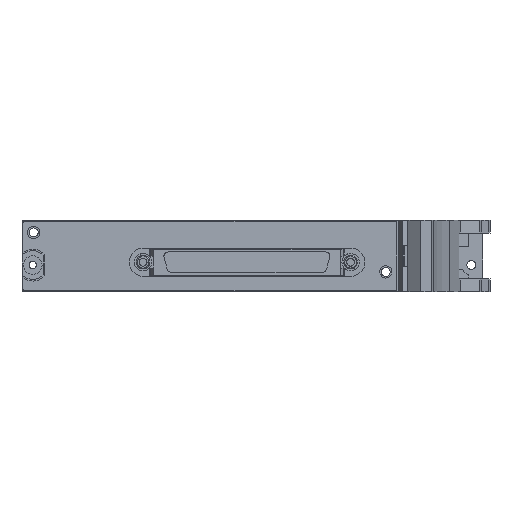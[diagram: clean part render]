
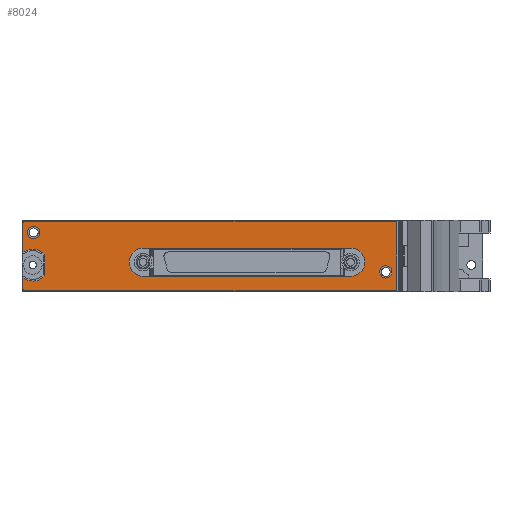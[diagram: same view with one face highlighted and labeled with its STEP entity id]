
A CAD part, left-side view. The second image highlights one B-rep face of the part: STEP entity #8024.
In plain terms, the highlighted planar face has unit normal (-1, 0, 0).
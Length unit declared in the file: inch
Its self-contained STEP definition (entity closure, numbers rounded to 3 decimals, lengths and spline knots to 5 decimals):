
#1949=CARTESIAN_POINT('',(-0.215,0.527,0.665));
#1950=DIRECTION('',(-1.,0.,0.));
#1951=DIRECTION('',(0.,0.,1.));
#1952=AXIS2_PLACEMENT_3D('',#1949,#1950,#1951);
#1954=DIRECTION('',(0.,1.,0.));
#1955=VECTOR('',#1954,4.07);
#1956=CARTESIAN_POINT('',(-0.215,-3.543,0.685));
#1957=LINE('',#1956,#1955);
#1958=CARTESIAN_POINT('',(-0.215,-3.543,0.665));
#1959=DIRECTION('',(-1.,0.,0.));
#1960=DIRECTION('',(0.,-1.,0.));
#1961=AXIS2_PLACEMENT_3D('',#1958,#1959,#1960);
#1963=DIRECTION('',(0.,0.,1.));
#1964=VECTOR('',#1963,0.728);
#1965=CARTESIAN_POINT('',(-0.215,-3.563,-0.063));
#1966=LINE('',#1965,#1964);
#1967=CARTESIAN_POINT('',(-0.215,-3.543,-0.063));
#1968=DIRECTION('',(-1.,0.,0.));
#1969=DIRECTION('',(0.,0.,-1.));
#1970=AXIS2_PLACEMENT_3D('',#1967,#1968,#1969);
#1972=DIRECTION('',(0.,-1.,0.));
#1973=VECTOR('',#1972,4.07);
#1974=CARTESIAN_POINT('',(-0.215,0.527,-0.083));
#1975=LINE('',#1974,#1973);
#1976=CARTESIAN_POINT('',(-0.215,0.527,-0.063));
#1977=DIRECTION('',(-1.,0.,0.));
#1978=DIRECTION('',(0.,1.,0.));
#1979=AXIS2_PLACEMENT_3D('',#1976,#1977,#1978);
#1981=DIRECTION('',(0.,0.,-1.));
#1982=VECTOR('',#1981,0.1263);
#1983=CARTESIAN_POINT('',(-0.215,0.547,0.0633));
#1984=LINE('',#1983,#1982);
#1985=CARTESIAN_POINT('',(-0.215,0.439,0.201));
#1986=DIRECTION('',(1.,0.,0.));
#1987=DIRECTION('',(0.,-0.76,-0.65));
#1988=AXIS2_PLACEMENT_3D('',#1985,#1986,#1987);
#1990=DIRECTION('',(0.,0.,-1.));
#1991=VECTOR('',#1990,0.22747);
#1992=CARTESIAN_POINT('',(-0.215,0.306,0.31474));
#1993=LINE('',#1992,#1991);
#1994=CARTESIAN_POINT('',(-0.215,0.439,0.201));
#1995=DIRECTION('',(1.,0.,0.));
#1996=DIRECTION('',(0.,0.617,0.787));
#1997=AXIS2_PLACEMENT_3D('',#1994,#1995,#1996);
#1999=DIRECTION('',(0.,0.,-1.));
#2000=VECTOR('',#1999,0.3263);
#2001=CARTESIAN_POINT('',(-0.215,0.547,0.665));
#2002=LINE('',#2001,#2000);
#2003=CARTESIAN_POINT('',(-0.215,0.429,0.56));
#2004=DIRECTION('',(-1.,0.,0.));
#2005=DIRECTION('',(0.,0.,1.));
#2006=AXIS2_PLACEMENT_3D('',#2003,#2004,#2005);
#2008=CARTESIAN_POINT('',(-0.215,0.429,0.56));
#2009=DIRECTION('',(-1.,0.,0.));
#2010=DIRECTION('',(0.,0.,-1.));
#2011=AXIS2_PLACEMENT_3D('',#2008,#2009,#2010);
#2013=CARTESIAN_POINT('',(-0.215,-3.44,0.126));
#2014=DIRECTION('',(-1.,0.,0.));
#2015=DIRECTION('',(0.,0.,1.));
#2016=AXIS2_PLACEMENT_3D('',#2013,#2014,#2015);
#2018=CARTESIAN_POINT('',(-0.215,-3.44,0.126));
#2019=DIRECTION('',(-1.,0.,0.));
#2020=DIRECTION('',(0.,0.,-1.));
#2021=AXIS2_PLACEMENT_3D('',#2018,#2019,#2020);
#2023=CARTESIAN_POINT('',(-0.215,-3.055,0.233));
#2024=DIRECTION('',(-1.,0.,0.));
#2025=DIRECTION('',(0.,0.,-1.));
#2026=AXIS2_PLACEMENT_3D('',#2023,#2024,#2025);
#2028=DIRECTION('',(0.,1.,0.));
#2029=VECTOR('',#2028,2.28);
#2030=CARTESIAN_POINT('',(-0.215,-3.055,0.388));
#2031=LINE('',#2030,#2029);
#2032=CARTESIAN_POINT('',(-0.215,-0.775,0.233));
#2033=DIRECTION('',(-1.,0.,0.));
#2034=DIRECTION('',(0.,0.,1.));
#2035=AXIS2_PLACEMENT_3D('',#2032,#2033,#2034);
#2037=DIRECTION('',(0.,-1.,0.));
#2038=VECTOR('',#2037,2.28);
#2039=CARTESIAN_POINT('',(-0.215,-0.775,0.078));
#2040=LINE('',#2039,#2038);
#4745=CARTESIAN_POINT('',(-0.215,0.527,0.685));
#4746=CARTESIAN_POINT('',(-0.215,0.547,0.665));
#4747=VERTEX_POINT('',#4745);
#4748=VERTEX_POINT('',#4746);
#4749=CARTESIAN_POINT('',(-0.215,0.547,0.3387));
#4750=VERTEX_POINT('',#4749);
#4751=CARTESIAN_POINT('',(-0.215,0.306,0.31474));
#4752=VERTEX_POINT('',#4751);
#4753=CARTESIAN_POINT('',(-0.215,0.306,0.08726));
#4754=VERTEX_POINT('',#4753);
#4755=CARTESIAN_POINT('',(-0.215,0.547,0.0633));
#4756=VERTEX_POINT('',#4755);
#4757=CARTESIAN_POINT('',(-0.215,0.547,-0.063));
#4758=VERTEX_POINT('',#4757);
#4759=CARTESIAN_POINT('',(-0.215,0.527,-0.083));
#4760=VERTEX_POINT('',#4759);
#4761=CARTESIAN_POINT('',(-0.215,-3.543,-0.083));
#4762=VERTEX_POINT('',#4761);
#4763=CARTESIAN_POINT('',(-0.215,-3.563,-0.063));
#4764=VERTEX_POINT('',#4763);
#4765=CARTESIAN_POINT('',(-0.215,-3.563,0.665));
#4766=VERTEX_POINT('',#4765);
#4767=CARTESIAN_POINT('',(-0.215,-3.543,0.685));
#4768=VERTEX_POINT('',#4767);
#4769=CARTESIAN_POINT('',(-0.215,0.429,0.6275));
#4770=CARTESIAN_POINT('',(-0.215,0.429,0.4925));
#4771=VERTEX_POINT('',#4769);
#4772=VERTEX_POINT('',#4770);
#4773=CARTESIAN_POINT('',(-0.215,-3.44,0.1935));
#4774=CARTESIAN_POINT('',(-0.215,-3.44,0.0585));
#4775=VERTEX_POINT('',#4773);
#4776=VERTEX_POINT('',#4774);
#4777=CARTESIAN_POINT('',(-0.215,-3.055,0.078));
#4778=CARTESIAN_POINT('',(-0.215,-3.055,0.388));
#4779=VERTEX_POINT('',#4777);
#4780=VERTEX_POINT('',#4778);
#4781=CARTESIAN_POINT('',(-0.215,-0.775,0.388));
#4782=VERTEX_POINT('',#4781);
#4783=CARTESIAN_POINT('',(-0.215,-0.775,0.078));
#4784=VERTEX_POINT('',#4783);
#7983=CARTESIAN_POINT('',(-0.215,0.439,0.201));
#7984=DIRECTION('',(-1.,0.,0.));
#7985=DIRECTION('',(0.,0.,1.));
#7986=AXIS2_PLACEMENT_3D('',#7983,#7984,#7985);
#7987=PLANE('',#7986);
#7988=ORIENTED_EDGE('',*,*,#7823,.F.);
#7989=ORIENTED_EDGE('',*,*,#7838,.F.);
#7990=ORIENTED_EDGE('',*,*,#7852,.F.);
#7991=ORIENTED_EDGE('',*,*,#7866,.F.);
#7992=ORIENTED_EDGE('',*,*,#7880,.F.);
#7993=ORIENTED_EDGE('',*,*,#7894,.F.);
#7994=ORIENTED_EDGE('',*,*,#7908,.F.);
#7995=ORIENTED_EDGE('',*,*,#7922,.F.);
#7996=ORIENTED_EDGE('',*,*,#7936,.F.);
#7997=ORIENTED_EDGE('',*,*,#7950,.F.);
#7998=ORIENTED_EDGE('',*,*,#7964,.F.);
#7999=ORIENTED_EDGE('',*,*,#7977,.F.);
#8000=EDGE_LOOP('',(#7988,#7989,#7990,#7991,#7992,#7993,#7994,#7995,#7996,#7997,
#7998,#7999));
#8001=FACE_OUTER_BOUND('',#8000,.F.);
#8003=ORIENTED_EDGE('',*,*,#8002,.T.);
#8005=ORIENTED_EDGE('',*,*,#8004,.T.);
#8006=EDGE_LOOP('',(#8003,#8005));
#8007=FACE_BOUND('',#8006,.F.);
#8009=ORIENTED_EDGE('',*,*,#8008,.T.);
#8011=ORIENTED_EDGE('',*,*,#8010,.T.);
#8012=EDGE_LOOP('',(#8009,#8011));
#8013=FACE_BOUND('',#8012,.F.);
#8015=ORIENTED_EDGE('',*,*,#8014,.T.);
#8017=ORIENTED_EDGE('',*,*,#8016,.T.);
#8019=ORIENTED_EDGE('',*,*,#8018,.T.);
#8021=ORIENTED_EDGE('',*,*,#8020,.T.);
#8022=EDGE_LOOP('',(#8015,#8017,#8019,#8021));
#8023=FACE_BOUND('',#8022,.F.);
#8024=ADVANCED_FACE('',(#8001,#8007,#8013,#8023),#7987,.T.);
#1953=CIRCLE('',#1952,0.02);
#1962=CIRCLE('',#1961,0.02);
#1971=CIRCLE('',#1970,0.02);
#1980=CIRCLE('',#1979,0.02);
#1989=CIRCLE('',#1988,0.175);
#1998=CIRCLE('',#1997,0.175);
#2007=CIRCLE('',#2006,0.0675);
#2012=CIRCLE('',#2011,0.0675);
#2017=CIRCLE('',#2016,0.0675);
#2022=CIRCLE('',#2021,0.0675);
#2027=CIRCLE('',#2026,0.155);
#2036=CIRCLE('',#2035,0.155);
#7823=EDGE_CURVE('',#4747,#4748,#1953,.T.);
#7838=EDGE_CURVE('',#4768,#4747,#1957,.T.);
#7852=EDGE_CURVE('',#4766,#4768,#1962,.T.);
#7866=EDGE_CURVE('',#4764,#4766,#1966,.T.);
#7880=EDGE_CURVE('',#4762,#4764,#1971,.T.);
#7894=EDGE_CURVE('',#4760,#4762,#1975,.T.);
#7908=EDGE_CURVE('',#4758,#4760,#1980,.T.);
#7922=EDGE_CURVE('',#4756,#4758,#1984,.T.);
#7936=EDGE_CURVE('',#4754,#4756,#1989,.T.);
#7950=EDGE_CURVE('',#4752,#4754,#1993,.T.);
#7964=EDGE_CURVE('',#4750,#4752,#1998,.T.);
#7977=EDGE_CURVE('',#4748,#4750,#2002,.T.);
#8002=EDGE_CURVE('',#4771,#4772,#2007,.T.);
#8004=EDGE_CURVE('',#4772,#4771,#2012,.T.);
#8008=EDGE_CURVE('',#4775,#4776,#2017,.T.);
#8010=EDGE_CURVE('',#4776,#4775,#2022,.T.);
#8014=EDGE_CURVE('',#4779,#4780,#2027,.T.);
#8016=EDGE_CURVE('',#4780,#4782,#2031,.T.);
#8018=EDGE_CURVE('',#4782,#4784,#2036,.T.);
#8020=EDGE_CURVE('',#4784,#4779,#2040,.T.);
